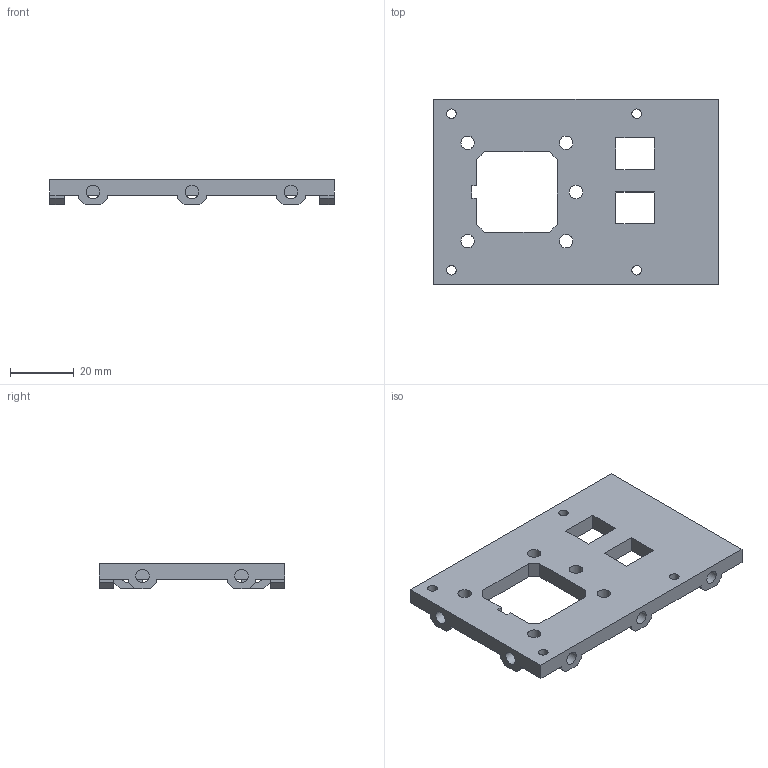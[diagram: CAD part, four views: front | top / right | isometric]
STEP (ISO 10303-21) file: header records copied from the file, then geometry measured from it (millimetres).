
FILE_DESCRIPTION(/* description */ ('STEP AP242','CAx-IF Rec.Pracs.---Representation and Presentation of Product Manufacturing Information (PMI)---4.0---2014-10-13','CAx-IF Rec.Pracs.---3D Tessellated Geometry---0.4---2014-09-14','2;1'),/* implementation_level */ '2;1');
FILE_NAME(/* name */ 'Case - Part 1',/* time_stamp */ '2024-08-18T13:23:25Z',/* author */ (''),/* organization */ (''),/* preprocessor_version */ 'ST-DEVELOPER v20',/* originating_system */ ' ',/* authorisation */ ' ');
FILE_SCHEMA (('AP242_MANAGED_MODEL_BASED_3D_ENGINEERING_MIM_LF { 1 0 10303 442 1 1 4 }'));
Length unit declared in the file: metre
Products named in the file (1): Part 1
Bounding box: 89 x 58 x 8 mm (x, y, z)
Volume: 21057 mm3; surface area: 12576.7 mm2
Topology: 1 solids, 1 shells, 116 faces, 371 edges, 247 vertices
Faces by surface type: plane 96, cylinder 19, cone 1
Full cylindrical faces by diameter (mm): 3 x4, 4.2 x15
Entity records: 3976 total; most frequent: CARTESIAN_POINT 695, ORIENTED_EDGE 682, DIRECTION 624, EDGE_CURVE 341, LINE 292, VECTOR 292, VERTEX_POINT 237, EDGE_LOOP 170
